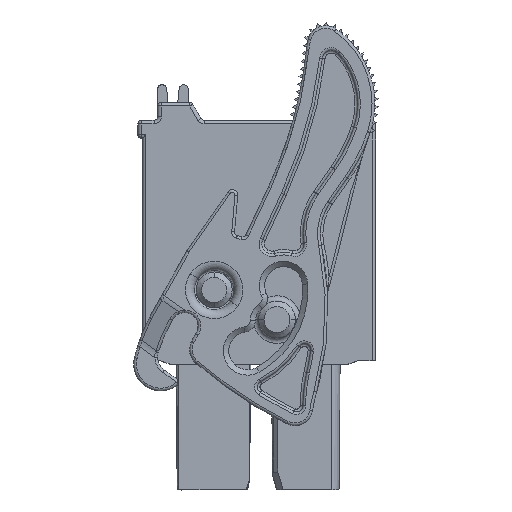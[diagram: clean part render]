
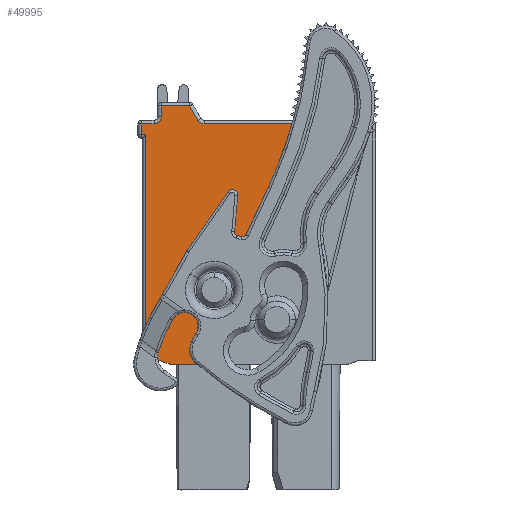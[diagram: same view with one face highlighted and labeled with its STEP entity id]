
A CAD part, left-side view. The second image highlights one B-rep face of the part: STEP entity #49995.
In plain terms, the highlighted planar face has unit normal (-1, 0, 0).
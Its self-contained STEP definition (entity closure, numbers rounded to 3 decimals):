
#3335=DIRECTION('',(0.,-1.,0.));
#3336=VECTOR('',#3335,5.04);
#3337=CARTESIAN_POINT('',(63.85,3.057,13.399));
#3338=LINE('',#3337,#3336);
#3347=DIRECTION('',(0.,-0.94,-0.342));
#3348=VECTOR('',#3347,0.585);
#3349=CARTESIAN_POINT('',(63.85,5.499,0.2));
#3350=LINE('',#3349,#3348);
#3351=CARTESIAN_POINT('',(63.85,5.849,13.799));
#3352=DIRECTION('',(1.,0.,0.));
#3353=DIRECTION('',(0.,-1.,0.));
#3354=AXIS2_PLACEMENT_3D('',#3351,#3352,#3353);
#3356=DIRECTION('',(0.,0.5,0.866));
#3357=VECTOR('',#3356,0.924);
#3358=CARTESIAN_POINT('',(63.85,3.403,13.599));
#3359=LINE('',#3358,#3357);
#3360=CARTESIAN_POINT('',(63.85,3.057,13.799));
#3361=DIRECTION('',(1.,0.,0.));
#3362=DIRECTION('',(0.,0.,-1.));
#3363=AXIS2_PLACEMENT_3D('',#3360,#3361,#3362);
#3520=DIRECTION('',(0.,-0.574,0.819));
#3521=VECTOR('',#3520,3.967);
#3522=CARTESIAN_POINT('',(63.85,3.889,6.265));
#3523=LINE('',#3522,#3521);
#3528=CARTESIAN_POINT('',(63.85,1.49,9.429));
#3529=DIRECTION('',(1.,0.,0.));
#3530=DIRECTION('',(0.,0.819,0.574));
#3531=AXIS2_PLACEMENT_3D('',#3528,#3529,#3530);
#3548=DIRECTION('',(0.,0.087,-0.996));
#3549=VECTOR('',#3548,2.028);
#3550=CARTESIAN_POINT('',(63.85,1.341,9.416));
#3551=LINE('',#3550,#3549);
#3556=CARTESIAN_POINT('',(63.85,1.169,7.365));
#3557=DIRECTION('',(1.,0.,0.));
#3558=DIRECTION('',(0.,0.259,-0.966));
#3559=AXIS2_PLACEMENT_3D('',#3556,#3557,#3558);
#3576=DIRECTION('',(0.,-0.966,-0.259));
#3577=VECTOR('',#3576,0.264);
#3578=CARTESIAN_POINT('',(63.85,1.259,7.027));
#3579=LINE('',#3578,#3577);
#3584=CARTESIAN_POINT('',(63.85,0.913,7.296));
#3585=DIRECTION('',(1.,0.,0.));
#3586=DIRECTION('',(0.,-0.906,-0.423));
#3587=AXIS2_PLACEMENT_3D('',#3584,#3585,#3586);
#3604=DIRECTION('',(0.,-0.423,0.906));
#3605=VECTOR('',#3604,2.943);
#3606=CARTESIAN_POINT('',(63.85,0.596,7.148));
#3607=LINE('',#3606,#3605);
#3612=CARTESIAN_POINT('',(63.85,21.149,19.98));
#3613=DIRECTION('',(1.,0.,0.));
#3614=DIRECTION('',(0.,-0.962,-0.274));
#3615=AXIS2_PLACEMENT_3D('',#3612,#3613,#3614);
#3922=CARTESIAN_POINT('',(63.85,-12.788,19.02));
#3923=DIRECTION('',(1.,0.,0.));
#3924=DIRECTION('',(0.,0.644,-0.765));
#3925=AXIS2_PLACEMENT_3D('',#3922,#3923,#3924);
#3937=CARTESIAN_POINT('',(63.85,2.867,0.829));
#3938=DIRECTION('',(1.,0.,0.));
#3939=DIRECTION('',(0.,0.652,-0.758));
#3940=AXIS2_PLACEMENT_3D('',#3937,#3938,#3939);
#3952=CARTESIAN_POINT('',(63.85,-2.778,-1.969));
#3953=DIRECTION('',(-1.,0.,0.));
#3954=DIRECTION('',(0.,0.865,0.502));
#3955=AXIS2_PLACEMENT_3D('',#3952,#3953,#3954);
#3975=CARTESIAN_POINT('',(63.85,4.149,2.13));
#3976=DIRECTION('',(-1.,0.,0.));
#3977=DIRECTION('',(0.,-0.823,-0.567));
#3978=AXIS2_PLACEMENT_3D('',#3975,#3976,#3977);
#3995=DIRECTION('',(0.,0.819,0.574));
#3996=VECTOR('',#3995,1.378);
#3997=CARTESIAN_POINT('',(63.85,4.133,3.032));
#3998=LINE('',#3997,#3996);
#4017=DIRECTION('',(0.,0.49,-0.872));
#4018=VECTOR('',#4017,2.803);
#4019=CARTESIAN_POINT('',(63.85,3.889,6.265));
#4020=LINE('',#4019,#4018);
#7895=DIRECTION('',(0.,1.,0.));
#7896=VECTOR('',#7895,1.745);
#7897=CARTESIAN_POINT('',(63.85,3.205,0.));
#7898=LINE('',#7897,#7896);
#11259=DIRECTION('',(0.,1.,0.));
#11260=VECTOR('',#11259,0.8);
#11261=CARTESIAN_POINT('',(63.85,5.499,0.2));
#11262=LINE('',#11261,#11260);
#11263=DIRECTION('',(0.,0.,1.));
#11264=VECTOR('',#11263,12.599);
#11265=CARTESIAN_POINT('',(63.85,6.299,0.2));
#11266=LINE('',#11265,#11264);
#11276=DIRECTION('',(0.,1.,0.));
#11277=VECTOR('',#11276,0.25);
#11278=CARTESIAN_POINT('',(63.85,6.299,12.799));
#11279=LINE('',#11278,#11277);
#32478=DIRECTION('',(0.,0.,1.));
#32479=VECTOR('',#32478,0.6);
#32480=CARTESIAN_POINT('',(63.85,5.449,13.799));
#32481=LINE('',#32480,#32479);
#32506=DIRECTION('',(0.,-1.,0.));
#32507=VECTOR('',#32506,1.584);
#32508=CARTESIAN_POINT('',(63.85,5.449,14.399));
#32509=LINE('',#32508,#32507);
#32548=DIRECTION('',(0.,-1.,
0.));
#32549=VECTOR('',#32548,0.7);
#32550=CARTESIAN_POINT('',(63.85,6.549,13.399));
#32551=LINE('',#32550,#32549);
#32566=DIRECTION('',(0.,0.,1.));
#32567=VECTOR('',#32566,0.6);
#32568=CARTESIAN_POINT('',(63.85,6.549,12.799));
#32569=LINE('',#32568,#32567);
#42765=CARTESIAN_POINT('',(63.85,6.549,13.399));
#42766=VERTEX_POINT('',#42765);
#42769=CARTESIAN_POINT('',(63.85,5.849,13.399));
#42770=VERTEX_POINT('',#42769);
#42771=CARTESIAN_POINT('',(63.85,6.299,0.2));
#42772=CARTESIAN_POINT('',(63.85,6.299,12.799));
#42773=VERTEX_POINT('',#42771);
#42774=VERTEX_POINT('',#42772);
#42775=CARTESIAN_POINT('',(63.85,6.549,12.799));
#42776=VERTEX_POINT('',#42775);
#42777=CARTESIAN_POINT('',(63.85,5.449,13.799));
#42778=VERTEX_POINT('',#42777);
#42779=CARTESIAN_POINT('',(63.85,5.449,14.399));
#42780=VERTEX_POINT('',#42779);
#42781=CARTESIAN_POINT('',(63.85,3.865,14.399));
#42782=VERTEX_POINT('',#42781);
#42783=CARTESIAN_POINT('',(63.85,3.403,13.599));
#42784=VERTEX_POINT('',#42783);
#42785=CARTESIAN_POINT('',(63.85,3.057,13.399));
#42786=VERTEX_POINT('',#42785);
#42805=CARTESIAN_POINT('',(63.85,5.499,0.2));
#42806=CARTESIAN_POINT('',(63.85,4.95,0.));
#42807=VERTEX_POINT('',#42805);
#42808=VERTEX_POINT('',#42806);
#45209=CARTESIAN_POINT('',(63.85,3.889,6.265));
#45210=CARTESIAN_POINT('',(63.85,1.613,9.515));
#45211=VERTEX_POINT('',#45209);
#45212=VERTEX_POINT('',#45210);
#45214=CARTESIAN_POINT('',(63.85,-1.983,13.399));
#45216=VERTEX_POINT('',#45214);
#45226=CARTESIAN_POINT('',(63.85,3.205,0.));
#45228=VERTEX_POINT('',#45226);
#45235=CARTESIAN_POINT('',(63.85,3.407,1.619));
#45236=CARTESIAN_POINT('',(63.85,4.133,3.032));
#45237=VERTEX_POINT('',#45235);
#45238=VERTEX_POINT('',#45236);
#45239=CARTESIAN_POINT('',(63.85,5.261,3.822));
#45240=VERTEX_POINT('',#45239);
#45241=CARTESIAN_POINT('',(63.85,3.422,0.185));
#45242=VERTEX_POINT('',#45241);
#45243=CARTESIAN_POINT('',(63.85,3.629,1.206));
#45244=VERTEX_POINT('',#45243);
#45253=CARTESIAN_POINT('',(63.85,1.341,9.416));
#45254=VERTEX_POINT('',#45253);
#45255=CARTESIAN_POINT('',(63.85,1.517,7.395));
#45256=VERTEX_POINT('',#45255);
#45257=CARTESIAN_POINT('',(63.85,1.259,7.027));
#45258=VERTEX_POINT('',#45257);
#45259=CARTESIAN_POINT('',(63.85,1.004,6.958));
#45260=VERTEX_POINT('',#45259);
#45261=CARTESIAN_POINT('',(63.85,0.596,7.148));
#45262=VERTEX_POINT('',#45261);
#45263=CARTESIAN_POINT('',(63.85,-0.648,
9.816));
#45264=VERTEX_POINT('',#45263);
#49935=CARTESIAN_POINT('',(63.85,3.057,13.799));
#49936=DIRECTION('',(1.,0.,0.));
#49937=DIRECTION('',(0.,1.,0.));
#49938=AXIS2_PLACEMENT_3D('',#49935,#49936,#49937);
#49939=PLANE('',#49938);
#49941=ORIENTED_EDGE('',*,*,#49940,.F.);
#49943=ORIENTED_EDGE('',*,*,#49942,.T.);
#49945=ORIENTED_EDGE('',*,*,#49944,.F.);
#49947=ORIENTED_EDGE('',*,*,#49946,.F.);
#49949=ORIENTED_EDGE('',*,*,#49948,.T.);
#49951=ORIENTED_EDGE('',*,*,#49950,.F.);
#49953=ORIENTED_EDGE('',*,*,#49952,.F.);
#49955=ORIENTED_EDGE('',*,*,#49954,.T.);
#49957=ORIENTED_EDGE('',*,*,#49956,.F.);
#49959=ORIENTED_EDGE('',*,*,#49958,.T.);
#49961=ORIENTED_EDGE('',*,*,#49960,.T.);
#49963=ORIENTED_EDGE('',*,*,#49962,.T.);
#49965=ORIENTED_EDGE('',*,*,#49964,.T.);
#49967=ORIENTED_EDGE('',*,*,#49966,.T.);
#49969=ORIENTED_EDGE('',*,*,#49968,.F.);
#49971=ORIENTED_EDGE('',*,*,#49970,.T.);
#49973=ORIENTED_EDGE('',*,*,#49972,.T.);
#49975=ORIENTED_EDGE('',*,*,#49974,.F.);
#49977=ORIENTED_EDGE('',*,*,#49976,.F.);
#49978=ORIENTED_EDGE('',*,*,#49923,.T.);
#49980=ORIENTED_EDGE('',*,*,#49979,.T.);
#49982=ORIENTED_EDGE('',*,*,#49981,.F.);
#49984=ORIENTED_EDGE('',*,*,#49983,.T.);
#49986=ORIENTED_EDGE('',*,*,#49985,.F.);
#49988=ORIENTED_EDGE('',*,*,#49987,.T.);
#49990=ORIENTED_EDGE('',*,*,#49989,.F.);
#49992=ORIENTED_EDGE('',*,*,#49991,.F.);
#49993=EDGE_LOOP('',(#49941,#49943,#49945,#49947,#49949,#49951,#49953,#49955,
#49957,#49959,#49961,#49963,#49965,#49967,#49969,#49971,#49973,#49975,#49977,
#49978,#49980,#49982,#49984,#49986,#49988,#49990,#49992));
#49994=FACE_OUTER_BOUND('',#49993,.F.);
#49995=ADVANCED_FACE('',(#49994),#49939,.F.);
#3355=CIRCLE('',#3354,0.4);
#3364=CIRCLE('',#3363,0.4);
#3532=CIRCLE('',#3531,0.15);
#3560=CIRCLE('',#3559,0.35);
#3588=CIRCLE('',#3587,0.35);
#3616=CIRCLE('',#3615,24.05);
#3926=CIRCLE('',#3925,24.85);
#3941=CIRCLE('',#3940,0.85);
#3956=CIRCLE('',#3955,7.15);
#3979=CIRCLE('',#3978,0.901);
#49923=EDGE_CURVE('',#42786,#45216,#3338,.T.);
#49940=EDGE_CURVE('',#45211,#45212,#3523,.T.);
#49942=EDGE_CURVE('',#45211,#45240,#4020,.T.);
#49944=EDGE_CURVE('',#45238,#45240,#3998,.T.);
#49946=EDGE_CURVE('',#45237,#45238,#3979,.T.);
#49948=EDGE_CURVE('',#45237,#45244,#3956,.T.);
#49950=EDGE_CURVE('',#45242,#45244,#3941,.T.);
#49952=EDGE_CURVE('',#45228,#45242,#3926,.T.);
#49954=EDGE_CURVE('',#45228,#42808,#7898,.T.);
#49956=EDGE_CURVE('',#42807,#42808,#3350,.T.);
#49958=EDGE_CURVE('',#42807,#42773,#11262,.T.);
#49960=EDGE_CURVE('',#42773,#42774,#11266,.T.);
#49962=EDGE_CURVE('',#42774,#42776,#11279,.T.);
#49964=EDGE_CURVE('',#42776,#42766,#32569,.T.);
#49966=EDGE_CURVE('',#42766,#42770,#32551,.T.);
#49968=EDGE_CURVE('',#42778,#42770,#3355,.T.);
#49970=EDGE_CURVE('',#42778,#42780,#32481,.T.);
#49972=EDGE_CURVE('',#42780,#42782,#32509,.T.);
#49974=EDGE_CURVE('',#42784,#42782,#3359,.T.);
#49976=EDGE_CURVE('',#42786,#42784,#3364,.T.);
#49979=EDGE_CURVE('',#45216,#45264,#3616,.T.);
#49981=EDGE_CURVE('',#45262,#45264,#3607,.T.);
#49983=EDGE_CURVE('',#45262,#45260,#3588,.T.);
#49985=EDGE_CURVE('',#45258,#45260,#3579,.T.);
#49987=EDGE_CURVE('',#45258,#45256,#3560,.T.);
#49989=EDGE_CURVE('',#45254,#45256,#3551,.T.);
#49991=EDGE_CURVE('',#45212,#45254,#3532,.T.);
